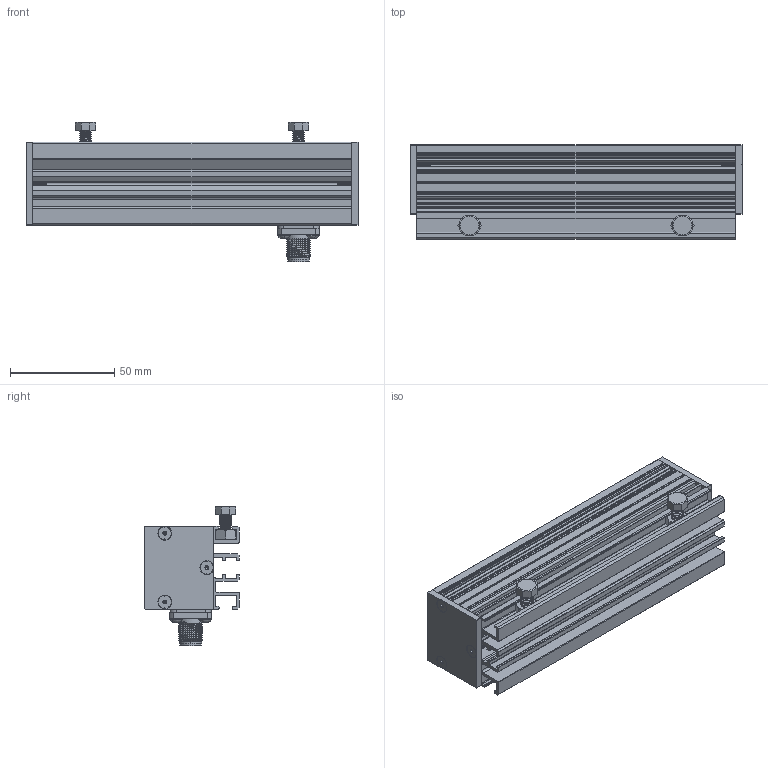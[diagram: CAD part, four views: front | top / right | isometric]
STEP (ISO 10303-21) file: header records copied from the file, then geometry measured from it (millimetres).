
FILE_DESCRIPTION (( 'STEP AP214' ), '1' );
FILE_NAME ('AL325-0150.STEP', '2025-01-09T22:39:17', ( '' ), ( '' ), 'SwSTEP 2.0', 'SolidWorks 2023', '' );
FILE_SCHEMA (( 'AUTOMOTIVE_DESIGN' ));
Length unit declared in the file: inch
Products named in the file (11): HH-M6X12_91460A312; 9452K311_9452K311; AL325-0150; 098407_Default<As Machined>; 099385_099386-XX; HN-M6_90592A016; 099307_099499 (Wires Hidden); 099414_Thin; BH-440x5_16_91255A107; 099451-XX_099451-XX; 91253A108_91253A108
Assembly tree (27 placements, depth 2):
  AL325-0150
    099385_099386-XX
    099307_099499 (Wires Hidden)
    098407_Default<As Machined>  x4
    BH-440x5_16_91255A107  x4
    9452K311_9452K311  x4
    099414_Thin  x2
    91253A108_91253A108  x6
    099451-XX_099451-XX
    HN-M6_90592A016  x2
    HH-M6X12_91460A312  x2
Bounding box: 159.26 x 45.21 x 66.77 mm (x, y, z)
Volume: 89146.8 mm3; surface area: 96798.9 mm2
Topology: 28 solids, 30 shells, 2191 faces, 5045 edges, 2923 vertices
Faces by surface type: cylinder 951, cone 731, plane 420, torus 62, bspline 17, sphere 10
Entity records: 34246 total; most frequent: CARTESIAN_POINT 11666, ORIENTED_EDGE 4736, DIRECTION 4639, EDGE_CURVE 2368, AXIS2_PLACEMENT_3D 1751, VERTEX_POINT 1463, LINE 1137, VECTOR 1137
